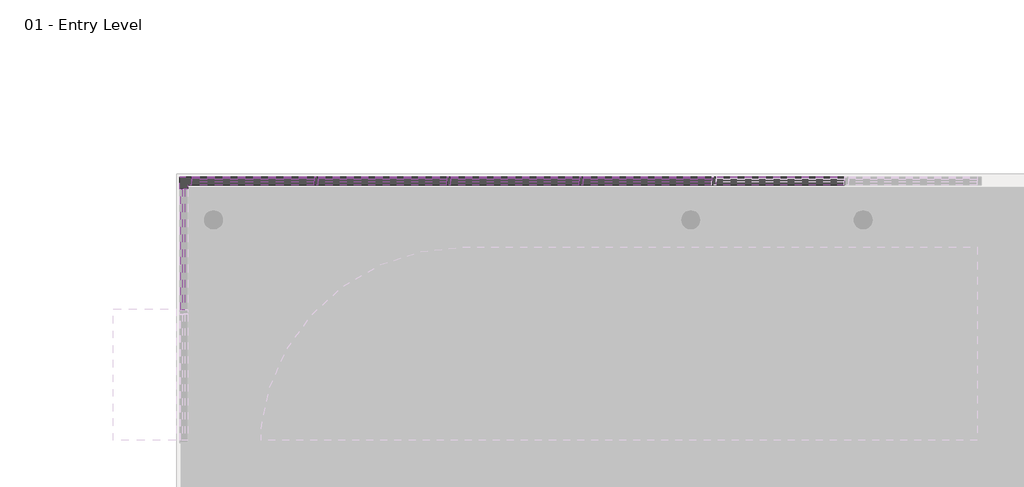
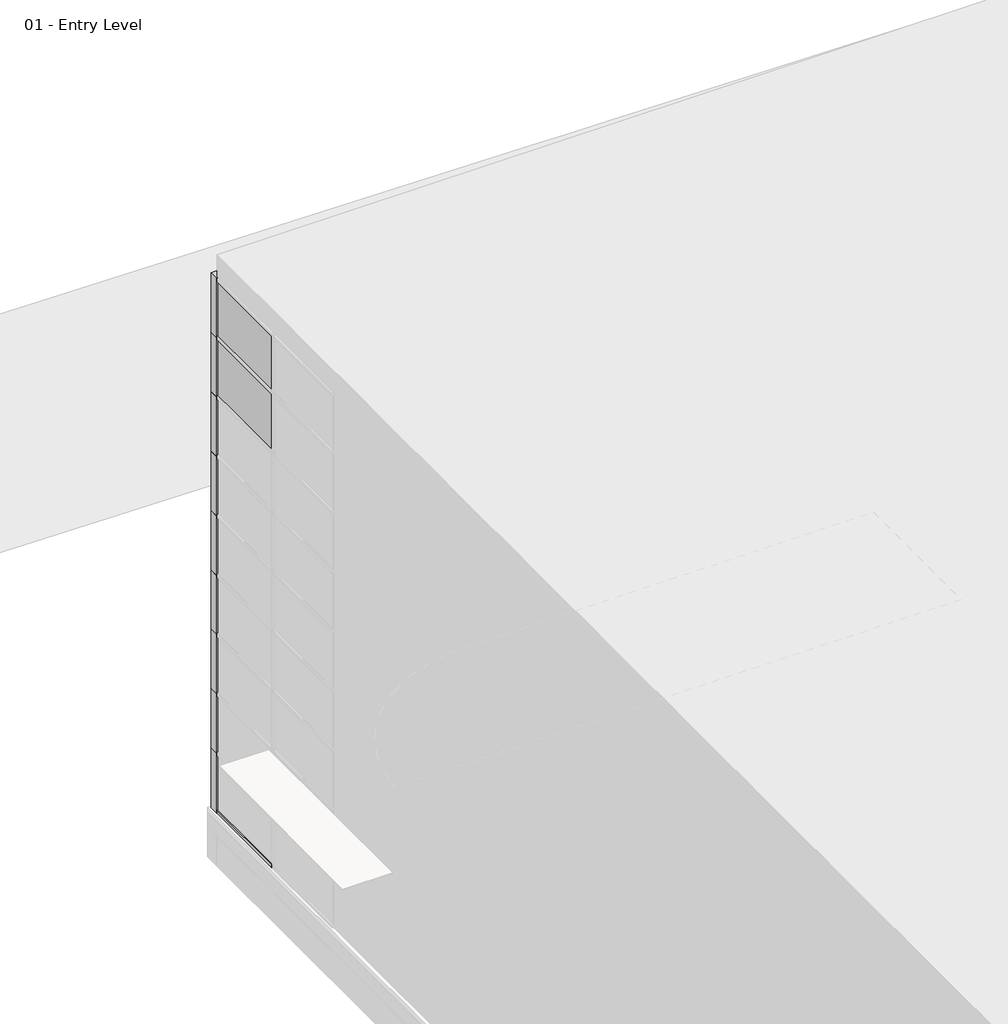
# One storey, part 28 of 35: 90 members, 38 plates.
"""IFC4 building model written with IfcOpenShell, lengths in millimetres."""

from ifc_helpers import new_model, si_unit, origin, place, context, project, spatial, transform, mapped, element, save
from components import member_6230916f, member_2b49869a, member_391b434c, member_9e90ae50, member_9822c4e5, member_b50b2218, member_bdc0ab2a, system_panel_glazed_1b9d6098, system_panel_glazed_70da479d, system_panel_glazed_01db37db, system_panel_glazed_0a464ab8, system_panel_glazed_acb8865d, system_panel_solid_b376696c, system_panel_solid_77e8b053, system_panel_solid_9da24cec, system_panel_solid_7d77b356, system_panel_solid_9c486990

model = new_model("IFC4")

# Units and contexts
model_context = context("Model", 3, world=origin())
ifc_project = project(units=[si_unit("LENGTHUNIT", "METRE", prefix="MILLI")], contexts=[model_context])

# Site, building, storey
site = spatial("IfcSite", under=ifc_project)
building = spatial("IfcBuilding", under=site)
storey = spatial("IfcBuildingStorey", under=building, Name="01 - Entry Level", Elevation=0.0)

# Members
placement = place(None, origin())
member_shape = member_6230916f(model_context)
element("IfcMember", 1, ObjectType="L Corner Mullion : 5\" x 5\" Corner", at=placement, inside=storey, context=model_context, shape_type="MappedRepresentation", body=[
    mapped(member_shape, transform((178.7207476, 53825.7, 10972.8), x_axis=(0.0, 1.0, 0.0), y_axis=(-1.0, 0.0, 0.0), z_axis=(0.0, 0.0, 1.0))),
])
element("IfcMember", 2, ObjectType="L Corner Mullion : 5\" x 5\" Corner", at=placement, inside=storey, context=model_context, shape_type="MappedRepresentation", body=[
    mapped(member_shape, transform((178.7207476, 53825.7, 1219.2), x_axis=(0.0, 1.0, 0.0), y_axis=(-1.0, 0.0, 0.0), z_axis=(0.0, 0.0, 1.0))),
])
element("IfcMember", 3, ObjectType="L Corner Mullion : 5\" x 5\" Corner", at=placement, inside=storey, context=model_context, shape_type="MappedRepresentation", body=[
    mapped(member_shape, transform((178.7207476, 53825.7, 8534.4), x_axis=(0.0, 1.0, 0.0), y_axis=(-1.0, 0.0, 0.0), z_axis=(0.0, 0.0, 1.0))),
])
element("IfcMember", 4, ObjectType="L Corner Mullion : 5\" x 5\" Corner", at=placement, inside=storey, context=model_context, shape_type="MappedRepresentation", body=[
    mapped(member_shape, transform((178.7207476, 53825.7, 7315.2), x_axis=(0.0, 1.0, 0.0), y_axis=(-1.0, 0.0, 0.0), z_axis=(0.0, 0.0, 1.0))),
])
element("IfcMember", 5, ObjectType="L Corner Mullion : 5\" x 5\" Corner", at=placement, inside=storey, context=model_context, shape_type="MappedRepresentation", body=[
    mapped(member_shape, transform((178.7207476, 53825.7, 9753.6), x_axis=(0.0, 1.0, 0.0), y_axis=(-1.0, 0.0, 0.0), z_axis=(0.0, 0.0, 1.0))),
])
element("IfcMember", 6, ObjectType="L Corner Mullion : 5\" x 5\" Corner", at=placement, inside=storey, context=model_context, shape_type="MappedRepresentation", body=[
    mapped(member_shape, transform((178.7207476, 53825.7, 6096.0), x_axis=(0.0, 1.0, 0.0), y_axis=(-1.0, 0.0, 0.0), z_axis=(0.0, 0.0, 1.0))),
])
element("IfcMember", 7, ObjectType="L Corner Mullion : 5\" x 5\" Corner", at=placement, inside=storey, context=model_context, shape_type="MappedRepresentation", body=[
    mapped(member_shape, transform((178.7207476, 53825.7, 2438.4), x_axis=(0.0, 1.0, 0.0), y_axis=(-1.0, 0.0, 0.0), z_axis=(0.0, 0.0, 1.0))),
])
element("IfcMember", 8, ObjectType="L Corner Mullion : 5\" x 5\" Corner", at=placement, inside=storey, context=model_context, shape_type="MappedRepresentation", body=[
    mapped(member_shape, transform((178.7207476, 53825.7, 3657.6), x_axis=(0.0, 1.0, 0.0), y_axis=(-1.0, 0.0, 0.0), z_axis=(0.0, 0.0, 1.0))),
])
element("IfcMember", 9, ObjectType="L Corner Mullion : 5\" x 5\" Corner", at=placement, inside=storey, context=model_context, shape_type="MappedRepresentation", body=[
    mapped(member_shape, transform((178.7207476, 53825.7, 4876.8), x_axis=(0.0, 1.0, 0.0), y_axis=(-1.0, 0.0, 0.0), z_axis=(0.0, 0.0, 1.0))),
])
member_2_shape = member_2b49869a(model_context)
element("IfcMember", 10, ObjectType="Rectangular Mullion : 2.5\" x 5\" rectangular", at=placement, inside=storey, context=model_context, shape_type="MappedRepresentation", body=[
    mapped(member_2_shape, transform((6274.7207476, 53825.7, 9753.6), x_axis=(-1.0, 0.0, 0.0), y_axis=(0.0, 1.0, 0.0), z_axis=(0.0, 0.0, -1.0))),
])
element("IfcMember", 11, ObjectType="Rectangular Mullion : 2.5\" x 5\" rectangular", at=placement, inside=storey, context=model_context, shape_type="MappedRepresentation", body=[
    mapped(member_2_shape, transform((4242.7207476, 53825.7, 9753.6), x_axis=(-1.0, 0.0, 0.0), y_axis=(0.0, 1.0, 0.0), z_axis=(0.0, 0.0, -1.0))),
])
element("IfcMember", 12, ObjectType="Rectangular Mullion : 2.5\" x 5\" rectangular", at=placement, inside=storey, context=model_context, shape_type="MappedRepresentation", body=[
    mapped(member_2_shape, transform((2210.7207476, 53825.7, 9753.6), x_axis=(-1.0, 0.0, 0.0), y_axis=(0.0, 1.0, 0.0), z_axis=(0.0, 0.0, -1.0))),
])
member_3_shape = member_391b434c(model_context)
element("IfcMember", 13, ObjectType="Rectangular Mullion : 2.5\" x 5\" rectangular", at=placement, inside=storey, context=model_context, shape_type="MappedRepresentation", body=[
    mapped(member_3_shape, transform((8338.4707476, 53825.7, 10972.8), x_axis=(0.0, 0.0, 1.0), y_axis=(0.0, 1.0, 0.0), z_axis=(-1.0, 0.0, 0.0))),
])
element("IfcMember", 14, ObjectType="Rectangular Mullion : 2.5\" x 5\" rectangular", at=placement, inside=storey, context=model_context, shape_type="MappedRepresentation", body=[
    mapped(member_3_shape, transform((6306.4707476, 53825.7, 10972.8), x_axis=(0.0, 0.0, 1.0), y_axis=(0.0, 1.0, 0.0), z_axis=(-1.0, 0.0, 0.0))),
])
element("IfcMember", 15, ObjectType="Rectangular Mullion : 2.5\" x 5\" rectangular", at=placement, inside=storey, context=model_context, shape_type="MappedRepresentation", body=[
    mapped(member_3_shape, transform((4274.4707476, 53825.7, 10972.8), x_axis=(0.0, 0.0, 1.0), y_axis=(0.0, 1.0, 0.0), z_axis=(-1.0, 0.0, 0.0))),
])
element("IfcMember", 16, ObjectType="Rectangular Mullion : 2.5\" x 5\" rectangular", at=placement, inside=storey, context=model_context, shape_type="MappedRepresentation", body=[
    mapped(member_3_shape, transform((2242.4707476, 53825.7, 10972.8), x_axis=(0.0, 0.0, 1.0), y_axis=(0.0, 1.0, 0.0), z_axis=(-1.0, 0.0, 0.0))),
])
element("IfcMember", 17, ObjectType="Rectangular Mullion : 2.5\" x 5\" rectangular", at=placement, inside=storey, context=model_context, shape_type="MappedRepresentation", body=[
    mapped(member_3_shape, transform((8274.9707476, 53825.7, 0.0), x_axis=(0.0, 0.0, -1.0), y_axis=(0.0, 1.0, 0.0), z_axis=(1.0, 0.0, 0.0))),
])
element("IfcMember", 18, ObjectType="Rectangular Mullion : 2.5\" x 5\" rectangular", at=placement, inside=storey, context=model_context, shape_type="MappedRepresentation", body=[
    mapped(member_3_shape, transform((6242.9707476, 53825.7, 0.0), x_axis=(0.0, 0.0, -1.0), y_axis=(0.0, 1.0, 0.0), z_axis=(1.0, 0.0, 0.0))),
])
element("IfcMember", 19, ObjectType="Rectangular Mullion : 2.5\" x 5\" rectangular", at=placement, inside=storey, context=model_context, shape_type="MappedRepresentation", body=[
    mapped(member_3_shape, transform((4210.9707476, 53825.7, 0.0), x_axis=(0.0, 0.0, -1.0), y_axis=(0.0, 1.0, 0.0), z_axis=(1.0, 0.0, 0.0))),
])
member_4_shape = member_9e90ae50(model_context)
element("IfcMember", 20, ObjectType="Rectangular Mullion : 2.5\" x 5\" rectangular", at=placement, inside=storey, context=model_context, shape_type="MappedRepresentation", body=[
    mapped(member_4_shape, transform((8338.4707476, 53825.7, 1219.2), x_axis=(0.0, 0.0, 1.0), y_axis=(0.0, 1.0, 0.0), z_axis=(-1.0, 0.0, 0.0))),
])
element("IfcMember", 21, ObjectType="Rectangular Mullion : 2.5\" x 5\" rectangular", at=placement, inside=storey, context=model_context, shape_type="MappedRepresentation", body=[
    mapped(member_4_shape, transform((6306.4707476, 53825.7, 1219.2), x_axis=(0.0, 0.0, 1.0), y_axis=(0.0, 1.0, 0.0), z_axis=(-1.0, 0.0, 0.0))),
])
element("IfcMember", 22, ObjectType="Rectangular Mullion : 2.5\" x 5\" rectangular", at=placement, inside=storey, context=model_context, shape_type="MappedRepresentation", body=[
    mapped(member_4_shape, transform((4274.4707476, 53825.7, 1219.2), x_axis=(0.0, 0.0, 1.0), y_axis=(0.0, 1.0, 0.0), z_axis=(-1.0, 0.0, 0.0))),
])
element("IfcMember", 23, ObjectType="Rectangular Mullion : 2.5\" x 5\" rectangular", at=placement, inside=storey, context=model_context, shape_type="MappedRepresentation", body=[
    mapped(member_4_shape, transform((2242.4707476, 53825.7, 1219.2), x_axis=(0.0, 0.0, 1.0), y_axis=(0.0, 1.0, 0.0), z_axis=(-1.0, 0.0, 0.0))),
])
element("IfcMember", 24, ObjectType="Rectangular Mullion : 2.5\" x 5\" rectangular", at=placement, inside=storey, context=model_context, shape_type="MappedRepresentation", body=[
    mapped(member_4_shape, transform((8338.4707476, 53825.7, 2438.4), x_axis=(0.0, 0.0, 1.0), y_axis=(0.0, 1.0, 0.0), z_axis=(-1.0, 0.0, 0.0))),
])
element("IfcMember", 25, ObjectType="Rectangular Mullion : 2.5\" x 5\" rectangular", at=placement, inside=storey, context=model_context, shape_type="MappedRepresentation", body=[
    mapped(member_4_shape, transform((6306.4707476, 53825.7, 2438.4), x_axis=(0.0, 0.0, 1.0), y_axis=(0.0, 1.0, 0.0), z_axis=(-1.0, 0.0, 0.0))),
])
element("IfcMember", 26, ObjectType="Rectangular Mullion : 2.5\" x 5\" rectangular", at=placement, inside=storey, context=model_context, shape_type="MappedRepresentation", body=[
    mapped(member_4_shape, transform((4274.4707476, 53825.7, 2438.4), x_axis=(0.0, 0.0, 1.0), y_axis=(0.0, 1.0, 0.0), z_axis=(-1.0, 0.0, 0.0))),
])
element("IfcMember", 27, ObjectType="Rectangular Mullion : 2.5\" x 5\" rectangular", at=placement, inside=storey, context=model_context, shape_type="MappedRepresentation", body=[
    mapped(member_4_shape, transform((2242.4707476, 53825.7, 2438.4), x_axis=(0.0, 0.0, 1.0), y_axis=(0.0, 1.0, 0.0), z_axis=(-1.0, 0.0, 0.0))),
])
element("IfcMember", 28, ObjectType="Rectangular Mullion : 2.5\" x 5\" rectangular", at=placement, inside=storey, context=model_context, shape_type="MappedRepresentation", body=[
    mapped(member_4_shape, transform((8338.4707476, 53825.7, 3657.6), x_axis=(0.0, 0.0, 1.0), y_axis=(0.0, 1.0, 0.0), z_axis=(-1.0, 0.0, 0.0))),
])
element("IfcMember", 29, ObjectType="Rectangular Mullion : 2.5\" x 5\" rectangular", at=placement, inside=storey, context=model_context, shape_type="MappedRepresentation", body=[
    mapped(member_4_shape, transform((6306.4707476, 53825.7, 3657.6), x_axis=(0.0, 0.0, 1.0), y_axis=(0.0, 1.0, 0.0), z_axis=(-1.0, 0.0, 0.0))),
])
element("IfcMember", 30, ObjectType="Rectangular Mullion : 2.5\" x 5\" rectangular", at=placement, inside=storey, context=model_context, shape_type="MappedRepresentation", body=[
    mapped(member_4_shape, transform((4274.4707476, 53825.7, 3657.6), x_axis=(0.0, 0.0, 1.0), y_axis=(0.0, 1.0, 0.0), z_axis=(-1.0, 0.0, 0.0))),
])
element("IfcMember", 31, ObjectType="Rectangular Mullion : 2.5\" x 5\" rectangular", at=placement, inside=storey, context=model_context, shape_type="MappedRepresentation", body=[
    mapped(member_4_shape, transform((2242.4707476, 53825.7, 3657.6), x_axis=(0.0, 0.0, 1.0), y_axis=(0.0, 1.0, 0.0), z_axis=(-1.0, 0.0, 0.0))),
])
element("IfcMember", 32, ObjectType="Rectangular Mullion : 2.5\" x 5\" rectangular", at=placement, inside=storey, context=model_context, shape_type="MappedRepresentation", body=[
    mapped(member_4_shape, transform((8338.4707476, 53825.7, 4876.8), x_axis=(0.0, 0.0, 1.0), y_axis=(0.0, 1.0, 0.0), z_axis=(-1.0, 0.0, 0.0))),
])
element("IfcMember", 33, ObjectType="Rectangular Mullion : 2.5\" x 5\" rectangular", at=placement, inside=storey, context=model_context, shape_type="MappedRepresentation", body=[
    mapped(member_4_shape, transform((6306.4707476, 53825.7, 4876.8), x_axis=(0.0, 0.0, 1.0), y_axis=(0.0, 1.0, 0.0), z_axis=(-1.0, 0.0, 0.0))),
])
element("IfcMember", 34, ObjectType="Rectangular Mullion : 2.5\" x 5\" rectangular", at=placement, inside=storey, context=model_context, shape_type="MappedRepresentation", body=[
    mapped(member_4_shape, transform((4274.4707476, 53825.7, 4876.8), x_axis=(0.0, 0.0, 1.0), y_axis=(0.0, 1.0, 0.0), z_axis=(-1.0, 0.0, 0.0))),
])
element("IfcMember", 35, ObjectType="Rectangular Mullion : 2.5\" x 5\" rectangular", at=placement, inside=storey, context=model_context, shape_type="MappedRepresentation", body=[
    mapped(member_4_shape, transform((2242.4707476, 53825.7, 4876.8), x_axis=(0.0, 0.0, 1.0), y_axis=(0.0, 1.0, 0.0), z_axis=(-1.0, 0.0, 0.0))),
])
element("IfcMember", 36, ObjectType="Rectangular Mullion : 2.5\" x 5\" rectangular", at=placement, inside=storey, context=model_context, shape_type="MappedRepresentation", body=[
    mapped(member_4_shape, transform((8338.4707476, 53825.7, 6096.0), x_axis=(0.0, 0.0, 1.0), y_axis=(0.0, 1.0, 0.0), z_axis=(-1.0, 0.0, 0.0))),
])
element("IfcMember", 37, ObjectType="Rectangular Mullion : 2.5\" x 5\" rectangular", at=placement, inside=storey, context=model_context, shape_type="MappedRepresentation", body=[
    mapped(member_4_shape, transform((6306.4707476, 53825.7, 6096.0), x_axis=(0.0, 0.0, 1.0), y_axis=(0.0, 1.0, 0.0), z_axis=(-1.0, 0.0, 0.0))),
])
element("IfcMember", 38, ObjectType="Rectangular Mullion : 2.5\" x 5\" rectangular", at=placement, inside=storey, context=model_context, shape_type="MappedRepresentation", body=[
    mapped(member_4_shape, transform((4274.4707476, 53825.7, 6096.0), x_axis=(0.0, 0.0, 1.0), y_axis=(0.0, 1.0, 0.0), z_axis=(-1.0, 0.0, 0.0))),
])
element("IfcMember", 39, ObjectType="Rectangular Mullion : 2.5\" x 5\" rectangular", at=placement, inside=storey, context=model_context, shape_type="MappedRepresentation", body=[
    mapped(member_4_shape, transform((2242.4707476, 53825.7, 6096.0), x_axis=(0.0, 0.0, 1.0), y_axis=(0.0, 1.0, 0.0), z_axis=(-1.0, 0.0, 0.0))),
])
element("IfcMember", 40, ObjectType="Rectangular Mullion : 2.5\" x 5\" rectangular", at=placement, inside=storey, context=model_context, shape_type="MappedRepresentation", body=[
    mapped(member_4_shape, transform((8338.4707476, 53825.7, 7315.2), x_axis=(0.0, 0.0, 1.0), y_axis=(0.0, 1.0, 0.0), z_axis=(-1.0, 0.0, 0.0))),
])
element("IfcMember", 41, ObjectType="Rectangular Mullion : 2.5\" x 5\" rectangular", at=placement, inside=storey, context=model_context, shape_type="MappedRepresentation", body=[
    mapped(member_4_shape, transform((6306.4707476, 53825.7, 7315.2), x_axis=(0.0, 0.0, 1.0), y_axis=(0.0, 1.0, 0.0), z_axis=(-1.0, 0.0, 0.0))),
])
element("IfcMember", 42, ObjectType="Rectangular Mullion : 2.5\" x 5\" rectangular", at=placement, inside=storey, context=model_context, shape_type="MappedRepresentation", body=[
    mapped(member_4_shape, transform((4274.4707476, 53825.7, 7315.2), x_axis=(0.0, 0.0, 1.0), y_axis=(0.0, 1.0, 0.0), z_axis=(-1.0, 0.0, 0.0))),
])
element("IfcMember", 43, ObjectType="Rectangular Mullion : 2.5\" x 5\" rectangular", at=placement, inside=storey, context=model_context, shape_type="MappedRepresentation", body=[
    mapped(member_4_shape, transform((2242.4707476, 53825.7, 7315.2), x_axis=(0.0, 0.0, 1.0), y_axis=(0.0, 1.0, 0.0), z_axis=(-1.0, 0.0, 0.0))),
])
element("IfcMember", 44, ObjectType="Rectangular Mullion : 2.5\" x 5\" rectangular", at=placement, inside=storey, context=model_context, shape_type="MappedRepresentation", body=[
    mapped(member_4_shape, transform((8338.4707476, 53825.7, 8534.4), x_axis=(0.0, 0.0, 1.0), y_axis=(0.0, 1.0, 0.0), z_axis=(-1.0, 0.0, 0.0))),
])
element("IfcMember", 45, ObjectType="Rectangular Mullion : 2.5\" x 5\" rectangular", at=placement, inside=storey, context=model_context, shape_type="MappedRepresentation", body=[
    mapped(member_4_shape, transform((6306.4707476, 53825.7, 8534.4), x_axis=(0.0, 0.0, 1.0), y_axis=(0.0, 1.0, 0.0), z_axis=(-1.0, 0.0, 0.0))),
])
element("IfcMember", 46, ObjectType="Rectangular Mullion : 2.5\" x 5\" rectangular", at=placement, inside=storey, context=model_context, shape_type="MappedRepresentation", body=[
    mapped(member_4_shape, transform((4274.4707476, 53825.7, 8534.4), x_axis=(0.0, 0.0, 1.0), y_axis=(0.0, 1.0, 0.0), z_axis=(-1.0, 0.0, 0.0))),
])
element("IfcMember", 47, ObjectType="Rectangular Mullion : 2.5\" x 5\" rectangular", at=placement, inside=storey, context=model_context, shape_type="MappedRepresentation", body=[
    mapped(member_4_shape, transform((2242.4707476, 53825.7, 8534.4), x_axis=(0.0, 0.0, 1.0), y_axis=(0.0, 1.0, 0.0), z_axis=(-1.0, 0.0, 0.0))),
])
element("IfcMember", 48, ObjectType="Rectangular Mullion : 2.5\" x 5\" rectangular", at=placement, inside=storey, context=model_context, shape_type="MappedRepresentation", body=[
    mapped(member_4_shape, transform((8338.4707476, 53825.7, 9753.6), x_axis=(0.0, 0.0, 1.0), y_axis=(0.0, 1.0, 0.0), z_axis=(-1.0, 0.0, 0.0))),
])
element("IfcMember", 49, ObjectType="Rectangular Mullion : 2.5\" x 5\" rectangular", at=placement, inside=storey, context=model_context, shape_type="MappedRepresentation", body=[
    mapped(member_4_shape, transform((6306.4707476, 53825.7, 9753.6), x_axis=(0.0, 0.0, 1.0), y_axis=(0.0, 1.0, 0.0), z_axis=(-1.0, 0.0, 0.0))),
])
element("IfcMember", 50, ObjectType="Rectangular Mullion : 2.5\" x 5\" rectangular", at=placement, inside=storey, context=model_context, shape_type="MappedRepresentation", body=[
    mapped(member_4_shape, transform((4274.4707476, 53825.7, 9753.6), x_axis=(0.0, 0.0, 1.0), y_axis=(0.0, 1.0, 0.0), z_axis=(-1.0, 0.0, 0.0))),
])
element("IfcMember", 51, ObjectType="Rectangular Mullion : 2.5\" x 5\" rectangular", at=placement, inside=storey, context=model_context, shape_type="MappedRepresentation", body=[
    mapped(member_4_shape, transform((2242.4707476, 53825.7, 9753.6), x_axis=(0.0, 0.0, 1.0), y_axis=(0.0, 1.0, 0.0), z_axis=(-1.0, 0.0, 0.0))),
])
element("IfcMember", 52, ObjectType="Rectangular Mullion : 2.5\" x 5\" rectangular", at=placement, inside=storey, context=model_context, shape_type="MappedRepresentation", body=[
    mapped(member_2_shape, transform((8306.7207476, 53825.7, 0.0), x_axis=(-1.0, 0.0, 0.0), y_axis=(0.0, 1.0, 0.0), z_axis=(0.0, 0.0, -1.0))),
])
element("IfcMember", 53, ObjectType="Rectangular Mullion : 2.5\" x 5\" rectangular", at=placement, inside=storey, context=model_context, shape_type="MappedRepresentation", body=[
    mapped(member_2_shape, transform((6274.7207476, 53825.7, 0.0), x_axis=(-1.0, 0.0, 0.0), y_axis=(0.0, 1.0, 0.0), z_axis=(0.0, 0.0, -1.0))),
])
element("IfcMember", 54, ObjectType="Rectangular Mullion : 2.5\" x 5\" rectangular", at=placement, inside=storey, context=model_context, shape_type="MappedRepresentation", body=[
    mapped(member_2_shape, transform((4242.7207476, 53825.7, 0.0), x_axis=(-1.0, 0.0, 0.0), y_axis=(0.0, 1.0, 0.0), z_axis=(0.0, 0.0, -1.0))),
])
element("IfcMember", 55, ObjectType="Rectangular Mullion : 2.5\" x 5\" rectangular", at=placement, inside=storey, context=model_context, shape_type="MappedRepresentation", body=[
    mapped(member_2_shape, transform((2210.7207476, 53825.7, 0.0), x_axis=(-1.0, 0.0, 0.0), y_axis=(0.0, 1.0, 0.0), z_axis=(0.0, 0.0, -1.0))),
])
element("IfcMember", 56, ObjectType="Rectangular Mullion : 2.5\" x 5\" rectangular", at=placement, inside=storey, context=model_context, shape_type="MappedRepresentation", body=[
    mapped(member_2_shape, transform((8306.7207476, 53825.7, 1219.2), x_axis=(-1.0, 0.0, 0.0), y_axis=(0.0, 1.0, 0.0), z_axis=(0.0, 0.0, -1.0))),
])
element("IfcMember", 57, ObjectType="Rectangular Mullion : 2.5\" x 5\" rectangular", at=placement, inside=storey, context=model_context, shape_type="MappedRepresentation", body=[
    mapped(member_2_shape, transform((6274.7207476, 53825.7, 1219.2), x_axis=(-1.0, 0.0, 0.0), y_axis=(0.0, 1.0, 0.0), z_axis=(0.0, 0.0, -1.0))),
])
element("IfcMember", 58, ObjectType="Rectangular Mullion : 2.5\" x 5\" rectangular", at=placement, inside=storey, context=model_context, shape_type="MappedRepresentation", body=[
    mapped(member_2_shape, transform((4242.7207476, 53825.7, 1219.2), x_axis=(-1.0, 0.0, 0.0), y_axis=(0.0, 1.0, 0.0), z_axis=(0.0, 0.0, -1.0))),
])
element("IfcMember", 59, ObjectType="Rectangular Mullion : 2.5\" x 5\" rectangular", at=placement, inside=storey, context=model_context, shape_type="MappedRepresentation", body=[
    mapped(member_2_shape, transform((8306.7207476, 53825.7, 2438.4), x_axis=(-1.0, 0.0, 0.0), y_axis=(0.0, 1.0, 0.0), z_axis=(0.0, 0.0, -1.0))),
])
element("IfcMember", 60, ObjectType="Rectangular Mullion : 2.5\" x 5\" rectangular", at=placement, inside=storey, context=model_context, shape_type="MappedRepresentation", body=[
    mapped(member_2_shape, transform((6274.7207476, 53825.7, 2438.4), x_axis=(-1.0, 0.0, 0.0), y_axis=(0.0, 1.0, 0.0), z_axis=(0.0, 0.0, -1.0))),
])
element("IfcMember", 61, ObjectType="Rectangular Mullion : 2.5\" x 5\" rectangular", at=placement, inside=storey, context=model_context, shape_type="MappedRepresentation", body=[
    mapped(member_2_shape, transform((4242.7207476, 53825.7, 2438.4), x_axis=(-1.0, 0.0, 0.0), y_axis=(0.0, 1.0, 0.0), z_axis=(0.0, 0.0, -1.0))),
])
element("IfcMember", 62, ObjectType="Rectangular Mullion : 2.5\" x 5\" rectangular", at=placement, inside=storey, context=model_context, shape_type="MappedRepresentation", body=[
    mapped(member_2_shape, transform((8306.7207476, 53825.7, 3657.6), x_axis=(-1.0, 0.0, 0.0), y_axis=(0.0, 1.0, 0.0), z_axis=(0.0, 0.0, -1.0))),
])
element("IfcMember", 63, ObjectType="Rectangular Mullion : 2.5\" x 5\" rectangular", at=placement, inside=storey, context=model_context, shape_type="MappedRepresentation", body=[
    mapped(member_2_shape, transform((6274.7207476, 53825.7, 3657.6), x_axis=(-1.0, 0.0, 0.0), y_axis=(0.0, 1.0, 0.0), z_axis=(0.0, 0.0, -1.0))),
])
element("IfcMember", 64, ObjectType="Rectangular Mullion : 2.5\" x 5\" rectangular", at=placement, inside=storey, context=model_context, shape_type="MappedRepresentation", body=[
    mapped(member_2_shape, transform((4242.7207476, 53825.7, 3657.6), x_axis=(-1.0, 0.0, 0.0), y_axis=(0.0, 1.0, 0.0), z_axis=(0.0, 0.0, -1.0))),
])
element("IfcMember", 65, ObjectType="Rectangular Mullion : 2.5\" x 5\" rectangular", at=placement, inside=storey, context=model_context, shape_type="MappedRepresentation", body=[
    mapped(member_2_shape, transform((6274.7207476, 53825.7, 4876.8), x_axis=(-1.0, 0.0, 0.0), y_axis=(0.0, 1.0, 0.0), z_axis=(0.0, 0.0, -1.0))),
])
element("IfcMember", 66, ObjectType="Rectangular Mullion : 2.5\" x 5\" rectangular", at=placement, inside=storey, context=model_context, shape_type="MappedRepresentation", body=[
    mapped(member_2_shape, transform((4242.7207476, 53825.7, 4876.8), x_axis=(-1.0, 0.0, 0.0), y_axis=(0.0, 1.0, 0.0), z_axis=(0.0, 0.0, -1.0))),
])
element("IfcMember", 67, ObjectType="Rectangular Mullion : 2.5\" x 5\" rectangular", at=placement, inside=storey, context=model_context, shape_type="MappedRepresentation", body=[
    mapped(member_2_shape, transform((6274.7207476, 53825.7, 6096.0), x_axis=(-1.0, 0.0, 0.0), y_axis=(0.0, 1.0, 0.0), z_axis=(0.0, 0.0, -1.0))),
])
element("IfcMember", 68, ObjectType="Rectangular Mullion : 2.5\" x 5\" rectangular", at=placement, inside=storey, context=model_context, shape_type="MappedRepresentation", body=[
    mapped(member_2_shape, transform((4242.7207476, 53825.7, 6096.0), x_axis=(-1.0, 0.0, 0.0), y_axis=(0.0, 1.0, 0.0), z_axis=(0.0, 0.0, -1.0))),
])
element("IfcMember", 69, ObjectType="Rectangular Mullion : 2.5\" x 5\" rectangular", at=placement, inside=storey, context=model_context, shape_type="MappedRepresentation", body=[
    mapped(member_2_shape, transform((6274.7207476, 53825.7, 7315.2), x_axis=(-1.0, 0.0, 0.0), y_axis=(0.0, 1.0, 0.0), z_axis=(0.0, 0.0, -1.0))),
])
element("IfcMember", 70, ObjectType="Rectangular Mullion : 2.5\" x 5\" rectangular", at=placement, inside=storey, context=model_context, shape_type="MappedRepresentation", body=[
    mapped(member_2_shape, transform((4242.7207476, 53825.7, 7315.2), x_axis=(-1.0, 0.0, 0.0), y_axis=(0.0, 1.0, 0.0), z_axis=(0.0, 0.0, -1.0))),
])
element("IfcMember", 71, ObjectType="Rectangular Mullion : 2.5\" x 5\" rectangular", at=placement, inside=storey, context=model_context, shape_type="MappedRepresentation", body=[
    mapped(member_2_shape, transform((6274.7207476, 53825.7, 8534.4), x_axis=(-1.0, 0.0, 0.0), y_axis=(0.0, 1.0, 0.0), z_axis=(0.0, 0.0, -1.0))),
])
element("IfcMember", 72, ObjectType="Rectangular Mullion : 2.5\" x 5\" rectangular", at=placement, inside=storey, context=model_context, shape_type="MappedRepresentation", body=[
    mapped(member_2_shape, transform((4242.7207476, 53825.7, 8534.4), x_axis=(-1.0, 0.0, 0.0), y_axis=(0.0, 1.0, 0.0), z_axis=(0.0, 0.0, -1.0))),
])
element("IfcMember", 73, ObjectType="Rectangular Mullion : 2.5\" x 5\" rectangular", at=placement, inside=storey, context=model_context, shape_type="MappedRepresentation", body=[
    mapped(member_2_shape, transform((2210.7207476, 53825.7, 1219.2), x_axis=(-1.0, 0.0, 0.0), y_axis=(0.0, 1.0, 0.0), z_axis=(0.0, 0.0, -1.0))),
])
element("IfcMember", 74, ObjectType="Rectangular Mullion : 2.5\" x 5\" rectangular", at=placement, inside=storey, context=model_context, shape_type="MappedRepresentation", body=[
    mapped(member_2_shape, transform((2210.7207476, 53825.7, 2438.4), x_axis=(-1.0, 0.0, 0.0), y_axis=(0.0, 1.0, 0.0), z_axis=(0.0, 0.0, -1.0))),
])
element("IfcMember", 75, ObjectType="Rectangular Mullion : 2.5\" x 5\" rectangular", at=placement, inside=storey, context=model_context, shape_type="MappedRepresentation", body=[
    mapped(member_2_shape, transform((2210.7207476, 53825.7, 3657.6), x_axis=(-1.0, 0.0, 0.0), y_axis=(0.0, 1.0, 0.0), z_axis=(0.0, 0.0, -1.0))),
])
element("IfcMember", 76, ObjectType="Rectangular Mullion : 2.5\" x 5\" rectangular", at=placement, inside=storey, context=model_context, shape_type="MappedRepresentation", body=[
    mapped(member_2_shape, transform((2210.7207476, 53825.7, 4876.8), x_axis=(-1.0, 0.0, 0.0), y_axis=(0.0, 1.0, 0.0), z_axis=(0.0, 0.0, -1.0))),
])
element("IfcMember", 77, ObjectType="Rectangular Mullion : 2.5\" x 5\" rectangular", at=placement, inside=storey, context=model_context, shape_type="MappedRepresentation", body=[
    mapped(member_2_shape, transform((2210.7207476, 53825.7, 6096.0), x_axis=(-1.0, 0.0, 0.0), y_axis=(0.0, 1.0, 0.0), z_axis=(0.0, 0.0, -1.0))),
])
element("IfcMember", 78, ObjectType="Rectangular Mullion : 2.5\" x 5\" rectangular", at=placement, inside=storey, context=model_context, shape_type="MappedRepresentation", body=[
    mapped(member_2_shape, transform((2210.7207476, 53825.7, 7315.2), x_axis=(-1.0, 0.0, 0.0), y_axis=(0.0, 1.0, 0.0), z_axis=(0.0, 0.0, -1.0))),
])
element("IfcMember", 79, ObjectType="Rectangular Mullion : 2.5\" x 5\" rectangular", at=placement, inside=storey, context=model_context, shape_type="MappedRepresentation", body=[
    mapped(member_2_shape, transform((2210.7207476, 53825.7, 8534.4), x_axis=(-1.0, 0.0, 0.0), y_axis=(0.0, 1.0, 0.0), z_axis=(0.0, 0.0, -1.0))),
])
member_5_shape = member_9822c4e5(model_context)
element("IfcMember", 80, ObjectType="Rectangular Mullion : 2.5\" x 5\" rectangular", at=placement, inside=storey, context=model_context, shape_type="MappedRepresentation", body=[
    mapped(member_5_shape, transform((305.7207476, 53825.7, 10972.8), x_axis=(0.0, 0.0, 1.0), y_axis=(0.0, 1.0, 0.0), z_axis=(-1.0, 0.0, 0.0))),
])
element("IfcMember", 81, ObjectType="Rectangular Mullion : 2.5\" x 5\" rectangular", at=placement, inside=storey, context=model_context, shape_type="MappedRepresentation", body=[
    mapped(member_5_shape, transform((2178.9707476, 53825.7, 0.0), x_axis=(0.0, 0.0, -1.0), y_axis=(0.0, 1.0, 0.0), z_axis=(1.0, 0.0, 0.0))),
])
member_6_shape = member_b50b2218(model_context)
element("IfcMember", 82, ObjectType="Rectangular Mullion : 2.5\" x 5\" rectangular", at=placement, inside=storey, context=model_context, shape_type="MappedRepresentation", body=[
    mapped(member_6_shape, transform((305.7207476, 53825.7, 1219.2), x_axis=(0.0, 0.0, 1.0), y_axis=(0.0, 1.0, 0.0), z_axis=(-1.0, 0.0, 0.0))),
])
element("IfcMember", 83, ObjectType="Rectangular Mullion : 2.5\" x 5\" rectangular", at=placement, inside=storey, context=model_context, shape_type="MappedRepresentation", body=[
    mapped(member_6_shape, transform((305.7207476, 53825.7, 2438.4), x_axis=(0.0, 0.0, 1.0), y_axis=(0.0, 1.0, 0.0), z_axis=(-1.0, 0.0, 0.0))),
])
element("IfcMember", 84, ObjectType="Rectangular Mullion : 2.5\" x 5\" rectangular", at=placement, inside=storey, context=model_context, shape_type="MappedRepresentation", body=[
    mapped(member_6_shape, transform((305.7207476, 53825.7, 3657.6), x_axis=(0.0, 0.0, 1.0), y_axis=(0.0, 1.0, 0.0), z_axis=(-1.0, 0.0, 0.0))),
])
element("IfcMember", 85, ObjectType="Rectangular Mullion : 2.5\" x 5\" rectangular", at=placement, inside=storey, context=model_context, shape_type="MappedRepresentation", body=[
    mapped(member_6_shape, transform((305.7207476, 53825.7, 4876.8), x_axis=(0.0, 0.0, 1.0), y_axis=(0.0, 1.0, 0.0), z_axis=(-1.0, 0.0, 0.0))),
])
element("IfcMember", 86, ObjectType="Rectangular Mullion : 2.5\" x 5\" rectangular", at=placement, inside=storey, context=model_context, shape_type="MappedRepresentation", body=[
    mapped(member_6_shape, transform((305.7207476, 53825.7, 6096.0), x_axis=(0.0, 0.0, 1.0), y_axis=(0.0, 1.0, 0.0), z_axis=(-1.0, 0.0, 0.0))),
])
element("IfcMember", 87, ObjectType="Rectangular Mullion : 2.5\" x 5\" rectangular", at=placement, inside=storey, context=model_context, shape_type="MappedRepresentation", body=[
    mapped(member_6_shape, transform((305.7207476, 53825.7, 7315.2), x_axis=(0.0, 0.0, 1.0), y_axis=(0.0, 1.0, 0.0), z_axis=(-1.0, 0.0, 0.0))),
])
element("IfcMember", 88, ObjectType="Rectangular Mullion : 2.5\" x 5\" rectangular", at=placement, inside=storey, context=model_context, shape_type="MappedRepresentation", body=[
    mapped(member_6_shape, transform((305.7207476, 53825.7, 8534.4), x_axis=(0.0, 0.0, 1.0), y_axis=(0.0, 1.0, 0.0), z_axis=(-1.0, 0.0, 0.0))),
])
element("IfcMember", 89, ObjectType="Rectangular Mullion : 2.5\" x 5\" rectangular", at=placement, inside=storey, context=model_context, shape_type="MappedRepresentation", body=[
    mapped(member_6_shape, transform((305.7207476, 53825.7, 9753.6), x_axis=(0.0, 0.0, 1.0), y_axis=(0.0, 1.0, 0.0), z_axis=(-1.0, 0.0, 0.0))),
])
member_7_shape = member_bdc0ab2a(model_context)
element("IfcMember", 90, ObjectType="Rectangular Mullion : 2.5\" x 5\" rectangular", at=placement, inside=storey, context=model_context, shape_type="MappedRepresentation", body=[
    mapped(member_7_shape, transform((178.7207476, 53698.7, 0.0), x_axis=(0.0, 0.0, -1.0), y_axis=(-1.0, 0.0, 0.0), z_axis=(0.0, 1.0, 0.0))),
])

# Plates
system_panel_glazed_shape = system_panel_glazed_1b9d6098(model_context)
element("IfcPlate", 91, ObjectType="System Panel : Glazed", at=placement, inside=storey, context=model_context, shape_type="MappedRepresentation", body=[
    mapped(system_panel_glazed_shape, transform((7290.7207476, 53825.7, 63.5), x_axis=(-1.0, 0.0, 0.0), y_axis=(0.0, -1.0, 0.0), z_axis=(0.0, 0.0, 1.0))),
])
element("IfcPlate", 92, ObjectType="System Panel : Glazed", at=placement, inside=storey, context=model_context, shape_type="MappedRepresentation", body=[
    mapped(system_panel_glazed_shape, transform((5258.7207476, 53825.7, 63.5), x_axis=(-1.0, 0.0, 0.0), y_axis=(0.0, -1.0, 0.0), z_axis=(0.0, 0.0, 1.0))),
])
element("IfcPlate", 93, ObjectType="System Panel : Glazed", at=placement, inside=storey, context=model_context, shape_type="MappedRepresentation", body=[
    mapped(system_panel_glazed_shape, transform((3226.7207476, 53825.7, 63.5), x_axis=(-1.0, 0.0, 0.0), y_axis=(0.0, -1.0, 0.0), z_axis=(0.0, 0.0, 1.0))),
])
system_panel_glazed_2_shape = system_panel_glazed_70da479d(model_context)
element("IfcPlate", 94, ObjectType="System Panel : Glazed", at=placement, inside=storey, context=model_context, shape_type="MappedRepresentation", body=[
    mapped(system_panel_glazed_2_shape, transform((7290.7207476, 53825.7, 1250.95), x_axis=(-1.0, 0.0, 0.0), y_axis=(0.0, -1.0, 0.0), z_axis=(0.0, 0.0, 1.0))),
])
element("IfcPlate", 95, ObjectType="System Panel : Glazed", at=placement, inside=storey, context=model_context, shape_type="MappedRepresentation", body=[
    mapped(system_panel_glazed_2_shape, transform((5258.7207476, 53825.7, 1250.95), x_axis=(-1.0, 0.0, 0.0), y_axis=(0.0, -1.0, 0.0), z_axis=(0.0, 0.0, 1.0))),
])
element("IfcPlate", 96, ObjectType="System Panel : Glazed", at=placement, inside=storey, context=model_context, shape_type="MappedRepresentation", body=[
    mapped(system_panel_glazed_2_shape, transform((3226.7207476, 53825.7, 1250.95), x_axis=(-1.0, 0.0, 0.0), y_axis=(0.0, -1.0, 0.0), z_axis=(0.0, 0.0, 1.0))),
])
element("IfcPlate", 97, ObjectType="System Panel : Glazed", at=placement, inside=storey, context=model_context, shape_type="MappedRepresentation", body=[
    mapped(system_panel_glazed_2_shape, transform((7290.7207476, 53825.7, 3689.35), x_axis=(-1.0, 0.0, 0.0), y_axis=(0.0, -1.0, 0.0), z_axis=(0.0, 0.0, 1.0))),
])
element("IfcPlate", 98, ObjectType="System Panel : Glazed", at=placement, inside=storey, context=model_context, shape_type="MappedRepresentation", body=[
    mapped(system_panel_glazed_2_shape, transform((5258.7207476, 53825.7, 3689.35), x_axis=(-1.0, 0.0, 0.0), y_axis=(0.0, -1.0, 0.0), z_axis=(0.0, 0.0, 1.0))),
])
element("IfcPlate", 99, ObjectType="System Panel : Glazed", at=placement, inside=storey, context=model_context, shape_type="MappedRepresentation", body=[
    mapped(system_panel_glazed_2_shape, transform((3226.7207476, 53825.7, 3689.35), x_axis=(-1.0, 0.0, 0.0), y_axis=(0.0, -1.0, 0.0), z_axis=(0.0, 0.0, 1.0))),
])
element("IfcPlate", 100, ObjectType="System Panel : Glazed", at=placement, inside=storey, context=model_context, shape_type="MappedRepresentation", body=[
    mapped(system_panel_glazed_2_shape, transform((7290.7207476, 53825.7, 4908.55), x_axis=(-1.0, 0.0, 0.0), y_axis=(0.0, -1.0, 0.0), z_axis=(0.0, 0.0, 1.0))),
])
element("IfcPlate", 101, ObjectType="System Panel : Glazed", at=placement, inside=storey, context=model_context, shape_type="MappedRepresentation", body=[
    mapped(system_panel_glazed_2_shape, transform((5258.7207476, 53825.7, 4908.55), x_axis=(-1.0, 0.0, 0.0), y_axis=(0.0, -1.0, 0.0), z_axis=(0.0, 0.0, 1.0))),
])
element("IfcPlate", 102, ObjectType="System Panel : Glazed", at=placement, inside=storey, context=model_context, shape_type="MappedRepresentation", body=[
    mapped(system_panel_glazed_2_shape, transform((3226.7207476, 53825.7, 4908.55), x_axis=(-1.0, 0.0, 0.0), y_axis=(0.0, -1.0, 0.0), z_axis=(0.0, 0.0, 1.0))),
])
element("IfcPlate", 103, ObjectType="System Panel : Glazed", at=placement, inside=storey, context=model_context, shape_type="MappedRepresentation", body=[
    mapped(system_panel_glazed_2_shape, transform((7290.7207476, 53825.7, 7346.95), x_axis=(-1.0, 0.0, 0.0), y_axis=(0.0, -1.0, 0.0), z_axis=(0.0, 0.0, 1.0))),
])
element("IfcPlate", 104, ObjectType="System Panel : Glazed", at=placement, inside=storey, context=model_context, shape_type="MappedRepresentation", body=[
    mapped(system_panel_glazed_2_shape, transform((5258.7207476, 53825.7, 7346.95), x_axis=(-1.0, 0.0, 0.0), y_axis=(0.0, -1.0, 0.0), z_axis=(0.0, 0.0, 1.0))),
])
element("IfcPlate", 105, ObjectType="System Panel : Glazed", at=placement, inside=storey, context=model_context, shape_type="MappedRepresentation", body=[
    mapped(system_panel_glazed_2_shape, transform((3226.7207476, 53825.7, 7346.95), x_axis=(-1.0, 0.0, 0.0), y_axis=(0.0, -1.0, 0.0), z_axis=(0.0, 0.0, 1.0))),
])
element("IfcPlate", 106, ObjectType="System Panel : Glazed", at=placement, inside=storey, context=model_context, shape_type="MappedRepresentation", body=[
    mapped(system_panel_glazed_2_shape, transform((7290.7207476, 53825.7, 8566.15), x_axis=(-1.0, 0.0, 0.0), y_axis=(0.0, -1.0, 0.0), z_axis=(0.0, 0.0, 1.0))),
])
element("IfcPlate", 107, ObjectType="System Panel : Glazed", at=placement, inside=storey, context=model_context, shape_type="MappedRepresentation", body=[
    mapped(system_panel_glazed_2_shape, transform((5258.7207476, 53825.7, 8566.15), x_axis=(-1.0, 0.0, 0.0), y_axis=(0.0, -1.0, 0.0), z_axis=(0.0, 0.0, 1.0))),
])
element("IfcPlate", 108, ObjectType="System Panel : Glazed", at=placement, inside=storey, context=model_context, shape_type="MappedRepresentation", body=[
    mapped(system_panel_glazed_2_shape, transform((3226.7207476, 53825.7, 8566.15), x_axis=(-1.0, 0.0, 0.0), y_axis=(0.0, -1.0, 0.0), z_axis=(0.0, 0.0, 1.0))),
])
system_panel_glazed_3_shape = system_panel_glazed_01db37db(model_context)
element("IfcPlate", 109, ObjectType="System Panel : Glazed", at=placement, inside=storey, context=model_context, shape_type="MappedRepresentation", body=[
    mapped(system_panel_glazed_3_shape, transform((1242.3457476, 53825.7, 63.5), x_axis=(-1.0, 0.0, 0.0), y_axis=(0.0, -1.0, 0.0), z_axis=(0.0, 0.0, 1.0))),
])
system_panel_glazed_4_shape = system_panel_glazed_0a464ab8(model_context)
element("IfcPlate", 110, ObjectType="System Panel : Glazed", at=placement, inside=storey, context=model_context, shape_type="MappedRepresentation", body=[
    mapped(system_panel_glazed_4_shape, transform((1242.3457476, 53825.7, 1250.95), x_axis=(-1.0, 0.0, 0.0), y_axis=(0.0, -1.0, 0.0), z_axis=(0.0, 0.0, 1.0))),
])
element("IfcPlate", 111, ObjectType="System Panel : Glazed", at=placement, inside=storey, context=model_context, shape_type="MappedRepresentation", body=[
    mapped(system_panel_glazed_4_shape, transform((1242.3457476, 53825.7, 3689.35), x_axis=(-1.0, 0.0, 0.0), y_axis=(0.0, -1.0, 0.0), z_axis=(0.0, 0.0, 1.0))),
])
element("IfcPlate", 112, ObjectType="System Panel : Glazed", at=placement, inside=storey, context=model_context, shape_type="MappedRepresentation", body=[
    mapped(system_panel_glazed_4_shape, transform((1242.3457476, 53825.7, 4908.55), x_axis=(-1.0, 0.0, 0.0), y_axis=(0.0, -1.0, 0.0), z_axis=(0.0, 0.0, 1.0))),
])
element("IfcPlate", 113, ObjectType="System Panel : Glazed", at=placement, inside=storey, context=model_context, shape_type="MappedRepresentation", body=[
    mapped(system_panel_glazed_4_shape, transform((1242.3457476, 53825.7, 7346.95), x_axis=(-1.0, 0.0, 0.0), y_axis=(0.0, -1.0, 0.0), z_axis=(0.0, 0.0, 1.0))),
])
element("IfcPlate", 114, ObjectType="System Panel : Glazed", at=placement, inside=storey, context=model_context, shape_type="MappedRepresentation", body=[
    mapped(system_panel_glazed_4_shape, transform((1242.3457476, 53825.7, 8566.15), x_axis=(-1.0, 0.0, 0.0), y_axis=(0.0, -1.0, 0.0), z_axis=(0.0, 0.0, 1.0))),
])
system_panel_glazed_5_shape = system_panel_glazed_acb8865d(model_context)
element("IfcPlate", 115, ObjectType="System Panel : Glazed", at=placement, inside=storey, context=model_context, shape_type="MappedRepresentation", body=[
    mapped(system_panel_glazed_5_shape, transform((178.7207476, 52771.6, 8566.15), x_axis=(0.0, -1.0, 0.0), y_axis=(1.0, 0.0, 0.0), z_axis=(0.0, 0.0, 1.0))),
])
system_panel_solid_shape = system_panel_solid_b376696c(model_context)
element("IfcPlate", 116, ObjectType="System Panel : Solid", at=placement, inside=storey, context=model_context, shape_type="MappedRepresentation", body=[
    mapped(system_panel_solid_shape, transform((7290.7207476, 53825.7, 9785.35), x_axis=(-1.0, 0.0, 0.0), y_axis=(0.0, -1.0, 0.0), z_axis=(0.0, 0.0, 1.0))),
])
element("IfcPlate", 117, ObjectType="System Panel : Solid", at=placement, inside=storey, context=model_context, shape_type="MappedRepresentation", body=[
    mapped(system_panel_solid_shape, transform((5258.7207476, 53825.7, 9785.35), x_axis=(-1.0, 0.0, 0.0), y_axis=(0.0, -1.0, 0.0), z_axis=(0.0, 0.0, 1.0))),
])
element("IfcPlate", 118, ObjectType="System Panel : Solid", at=placement, inside=storey, context=model_context, shape_type="MappedRepresentation", body=[
    mapped(system_panel_solid_shape, transform((3226.7207476, 53825.7, 9785.35), x_axis=(-1.0, 0.0, 0.0), y_axis=(0.0, -1.0, 0.0), z_axis=(0.0, 0.0, 1.0))),
])
system_panel_solid_2_shape = system_panel_solid_77e8b053(model_context)
element("IfcPlate", 119, ObjectType="System Panel : Solid", at=placement, inside=storey, context=model_context, shape_type="MappedRepresentation", body=[
    mapped(system_panel_solid_2_shape, transform((7290.7207476, 53825.7, 2470.15), x_axis=(-1.0, 0.0, 0.0), y_axis=(0.0, -1.0, 0.0), z_axis=(0.0, 0.0, 1.0))),
])
element("IfcPlate", 120, ObjectType="System Panel : Solid", at=placement, inside=storey, context=model_context, shape_type="MappedRepresentation", body=[
    mapped(system_panel_solid_2_shape, transform((5258.7207476, 53825.7, 2470.15), x_axis=(-1.0, 0.0, 0.0), y_axis=(0.0, -1.0, 0.0), z_axis=(0.0, 0.0, 1.0))),
])
element("IfcPlate", 121, ObjectType="System Panel : Solid", at=placement, inside=storey, context=model_context, shape_type="MappedRepresentation", body=[
    mapped(system_panel_solid_2_shape, transform((3226.7207476, 53825.7, 2470.15), x_axis=(-1.0, 0.0, 0.0), y_axis=(0.0, -1.0, 0.0), z_axis=(0.0, 0.0, 1.0))),
])
element("IfcPlate", 122, ObjectType="System Panel : Solid", at=placement, inside=storey, context=model_context, shape_type="MappedRepresentation", body=[
    mapped(system_panel_solid_2_shape, transform((7290.7207476, 53825.7, 6127.75), x_axis=(-1.0, 0.0, 0.0), y_axis=(0.0, -1.0, 0.0), z_axis=(0.0, 0.0, 1.0))),
])
element("IfcPlate", 123, ObjectType="System Panel : Solid", at=placement, inside=storey, context=model_context, shape_type="MappedRepresentation", body=[
    mapped(system_panel_solid_2_shape, transform((5258.7207476, 53825.7, 6127.75), x_axis=(-1.0, 0.0, 0.0), y_axis=(0.0, -1.0, 0.0), z_axis=(0.0, 0.0, 1.0))),
])
element("IfcPlate", 124, ObjectType="System Panel : Solid", at=placement, inside=storey, context=model_context, shape_type="MappedRepresentation", body=[
    mapped(system_panel_solid_2_shape, transform((3226.7207476, 53825.7, 6127.75), x_axis=(-1.0, 0.0, 0.0), y_axis=(0.0, -1.0, 0.0), z_axis=(0.0, 0.0, 1.0))),
])
system_panel_solid_3_shape = system_panel_solid_9da24cec(model_context)
element("IfcPlate", 125, ObjectType="System Panel : Solid", at=placement, inside=storey, context=model_context, shape_type="MappedRepresentation", body=[
    mapped(system_panel_solid_3_shape, transform((178.7207476, 52771.6, 9785.35), x_axis=(0.0, -1.0, 0.0), y_axis=(1.0, 0.0, 0.0), z_axis=(0.0, 0.0, 1.0))),
])
system_panel_solid_4_shape = system_panel_solid_7d77b356(model_context)
element("IfcPlate", 126, ObjectType="System Panel : Solid", at=placement, inside=storey, context=model_context, shape_type="MappedRepresentation", body=[
    mapped(system_panel_solid_4_shape, transform((1242.3457476, 53825.7, 2470.15), x_axis=(-1.0, 0.0, 0.0), y_axis=(0.0, -1.0, 0.0), z_axis=(0.0, 0.0, 1.0))),
])
element("IfcPlate", 127, ObjectType="System Panel : Solid", at=placement, inside=storey, context=model_context, shape_type="MappedRepresentation", body=[
    mapped(system_panel_solid_4_shape, transform((1242.3457476, 53825.7, 6127.75), x_axis=(-1.0, 0.0, 0.0), y_axis=(0.0, -1.0, 0.0), z_axis=(0.0, 0.0, 1.0))),
])
system_panel_solid_5_shape = system_panel_solid_9c486990(model_context)
element("IfcPlate", 128, ObjectType="System Panel : Solid", at=placement, inside=storey, context=model_context, shape_type="MappedRepresentation", body=[
    mapped(system_panel_solid_5_shape, transform((1242.3457476, 53825.7, 9785.35), x_axis=(-1.0, 0.0, 0.0), y_axis=(0.0, -1.0, 0.0), z_axis=(0.0, 0.0, 1.0))),
])

save(model, "model.ifc")
